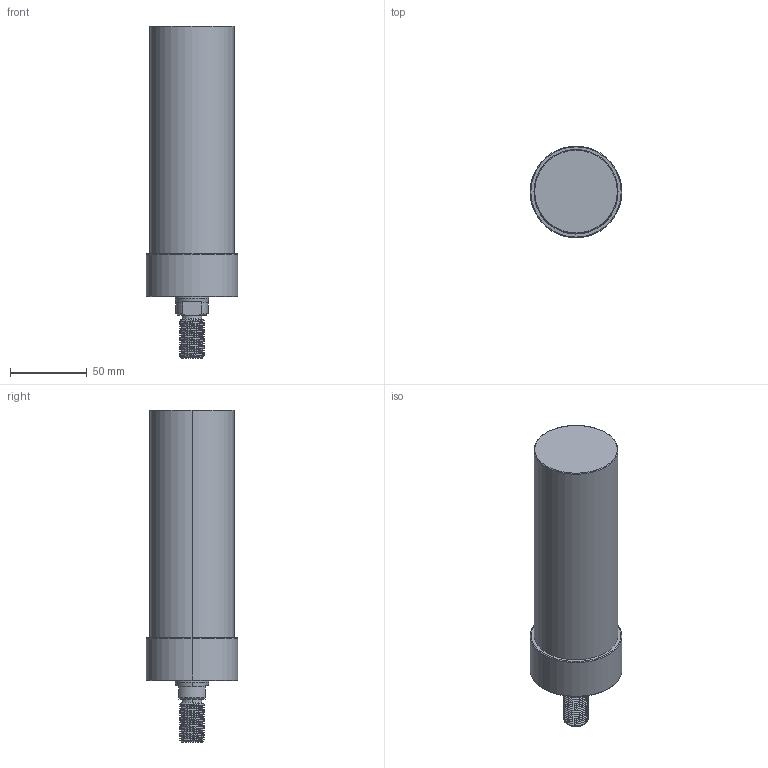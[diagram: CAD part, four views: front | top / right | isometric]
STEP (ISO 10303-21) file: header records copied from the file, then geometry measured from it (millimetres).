
FILE_DESCRIPTION (( 'STEP AP203' ), '1' );
FILE_NAME ('CLLU-055GT-120.STEP', '2020-01-16T01:56:31', ( '' ), ( '' ), 'SwSTEP 2.0', 'SolidWorks 2015', '' );
FILE_SCHEMA (( 'CONFIG_CONTROL_DESIGN' ));
Length unit declared in the file: millimetre
Products named in the file (1): CLLU-055GT-120
Bounding box: 60 x 60 x 217 mm (x, y, z)
Volume: 440475.3 mm3; surface area: 40698.5 mm2
Topology: 1 solids, 1 shells, 102 faces, 254 edges, 155 vertices
Faces by surface type: cylinder 56, cone 26, plane 12, torus 6, bspline 2
Entity records: 4885 total; most frequent: CARTESIAN_POINT 2594, ORIENTED_EDGE 492, DIRECTION 445, EDGE_CURVE 246, AXIS2_PLACEMENT_3D 178, VERTEX_POINT 155, EDGE_LOOP 111, FACE_OUTER_BOUND 102
